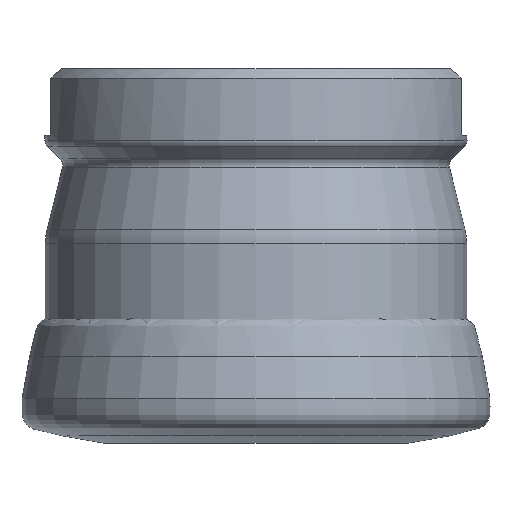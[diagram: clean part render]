
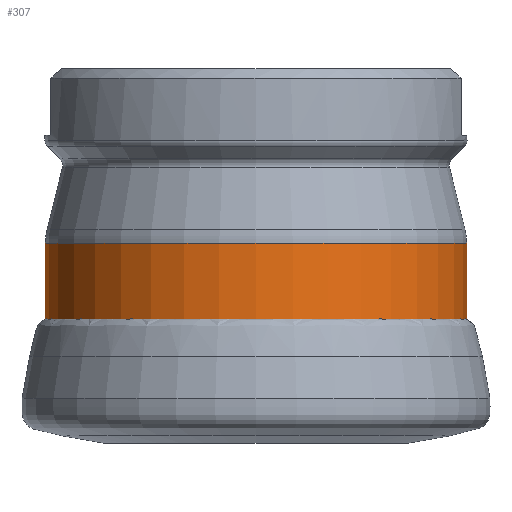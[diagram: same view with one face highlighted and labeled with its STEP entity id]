
A CAD part, front view. The second image highlights one B-rep face of the part: STEP entity #307.
In plain terms, the highlighted cylindrical face has radius 22.463 mm (diameter 44.926 mm), a full revolution.
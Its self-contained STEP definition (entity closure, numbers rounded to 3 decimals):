
#204=CYLINDRICAL_SURFACE('',#1067,22.463);
#307=ADVANCED_FACE('',(#394,#395),#204,.T.);
#394=FACE_BOUND('',#480,.T.);
#395=FACE_BOUND('',#481,.T.);
#480=EDGE_LOOP('',(#613));
#481=EDGE_LOOP('',(#614));
#613=ORIENTED_EDGE('',*,*,#909,.T.);
#614=ORIENTED_EDGE('',*,*,#910,.T.);
#821=VERTEX_POINT('',#1598);
#822=VERTEX_POINT('',#1600);
#909=EDGE_CURVE('',#821,#821,#997,.T.);
#910=EDGE_CURVE('',#822,#822,#998,.T.);
#997=CIRCLE('',#1065,22.463);
#998=CIRCLE('',#1066,22.463);
#1065=AXIS2_PLACEMENT_3D('',#1597,#1226,#1227);
#1066=AXIS2_PLACEMENT_3D('',#1599,#1228,#1229);
#1067=AXIS2_PLACEMENT_3D('',#1601,#1230,#1231);
#1226=DIRECTION('',(0.,0.,-1.));
#1227=DIRECTION('',(-1.,0.,0.));
#1228=DIRECTION('',(0.,0.,1.));
#1229=DIRECTION('',(1.,0.,0.));
#1230=DIRECTION('',(0.,0.,1.));
#1231=DIRECTION('',(-1.,0.,0.));
#1597=CARTESIAN_POINT('',(0.,0.,-18.59));
#1598=CARTESIAN_POINT('',(-22.463,0.,-18.59));
#1599=CARTESIAN_POINT('',(0.,0.,-27.182));
#1600=CARTESIAN_POINT('',(22.463,0.,-27.182));
#1601=CARTESIAN_POINT('',(0.,0.,-39.9));
